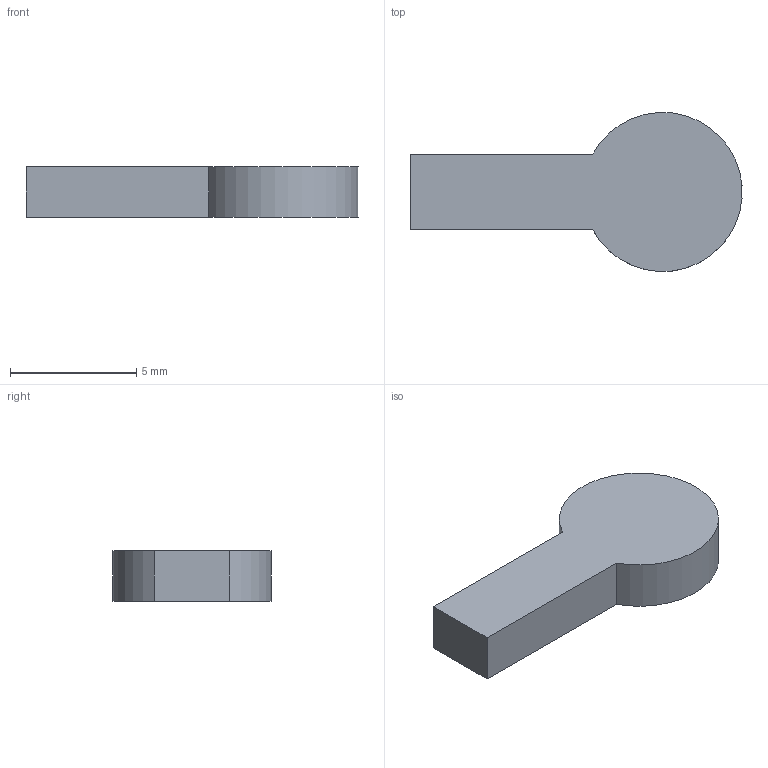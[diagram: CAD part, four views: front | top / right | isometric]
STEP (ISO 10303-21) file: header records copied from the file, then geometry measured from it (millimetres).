
FILE_DESCRIPTION(('Open CASCADE Model'),'2;1');
FILE_NAME('Open CASCADE Shape Model','1970-01-01T00:00:00',('Author'),( 'Open CASCADE'),'Open CASCADE STEP processor 7.8','Open CASCADE 7.8' ,'Unknown');
FILE_SCHEMA(('AUTOMOTIVE_DESIGN { 1 0 10303 214 1 1 1 1 }'));
Length unit declared in the file: millimetre
Products named in the file (2): Open CASCADE STEP translator 7.8 1; carrier-spring-pusher
Assembly tree (1 placements, depth 2):
  Open CASCADE STEP translator 7.8 1
    carrier-spring-pusher
Bounding box: 13.14 x 6.29 x 2 mm (x, y, z)
Volume: 104.2 mm3; surface area: 172.4 mm2
Topology: 1 solids, 1 shells, 6 faces, 12 edges, 8 vertices
Faces by surface type: plane 5, cylinder 1
Entity records: 350 total; most frequent: CARTESIAN_POINT 62, DIRECTION 49, LINE 28, VECTOR 28, ORIENTED_EDGE 24, PCURVE 24, DEFINITIONAL_REPRESENTATION 24, EDGE_CURVE 12
